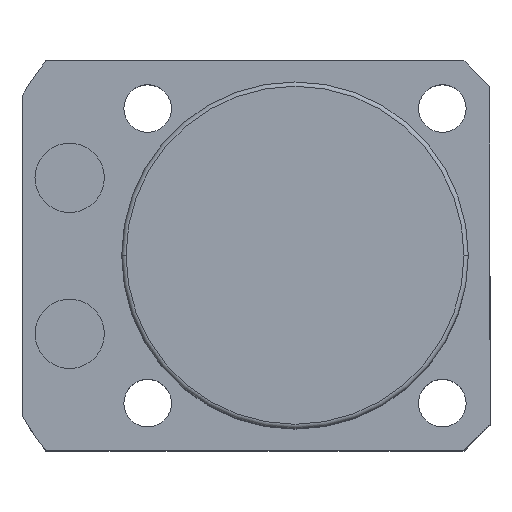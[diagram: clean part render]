
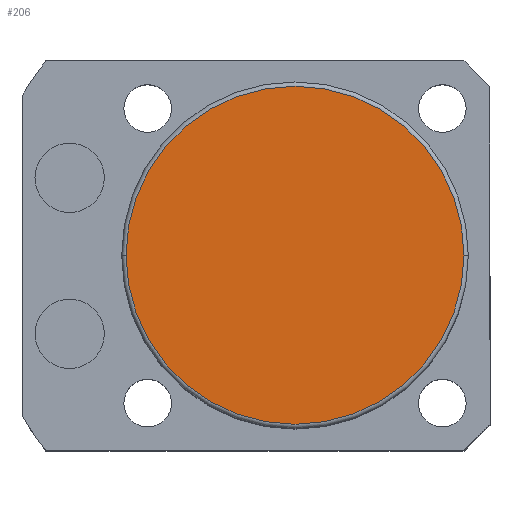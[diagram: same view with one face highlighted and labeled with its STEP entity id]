
A CAD part, top view. The second image highlights one B-rep face of the part: STEP entity #206.
In plain terms, the highlighted planar face has unit normal (0, 0, 1).
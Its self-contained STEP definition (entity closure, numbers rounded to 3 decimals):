
#27 = DIRECTION ( 'NONE',  ( 0., 0., 1. ) ) ;
#206 = ADVANCED_FACE ( 'NONE', ( #2060 ), #1868, .T. ) ;
#391 = CIRCLE ( 'NONE', #996, 19.5 ) ;
#403 = DIRECTION ( 'NONE',  ( 0., 0., 1. ) ) ;
#548 = ORIENTED_EDGE ( 'NONE', *, *, #2333, .T. ) ;
#574 = EDGE_LOOP ( 'NONE', ( #708, #548 ) ) ;
#708 = ORIENTED_EDGE ( 'NONE', *, *, #1601, .T. ) ;
#942 = AXIS2_PLACEMENT_3D ( 'NONE', #1696, #403, #1127 ) ;
#996 = AXIS2_PLACEMENT_3D ( 'NONE', #1747, #1778, #2327 ) ;
#1004 = CARTESIAN_POINT ( 'NONE',  ( 19.5, 0., 48.5 ) ) ;
#1009 = CARTESIAN_POINT ( 'NONE',  ( -19.5, 0., 48.5 ) ) ;
#1127 = DIRECTION ( 'NONE',  ( 1., 0., 0. ) ) ;
#1506 = VERTEX_POINT ( 'NONE', #1004 ) ;
#1601 = EDGE_CURVE ( 'NONE', #1506, #2107, #391, .T. ) ;
#1676 = DIRECTION ( 'NONE',  ( 1., 0., 0. ) ) ;
#1696 = CARTESIAN_POINT ( 'NONE',  ( 0., 0., 48.5 ) ) ;
#1747 = CARTESIAN_POINT ( 'NONE',  ( 0., 0., 48.5 ) ) ;
#1778 = DIRECTION ( 'NONE',  ( 0., 0., 1. ) ) ;
#1868 = PLANE ( 'NONE',  #942 ) ;
#1885 = CIRCLE ( 'NONE', #2155, 19.5 ) ;
#2060 = FACE_OUTER_BOUND ( 'NONE', #574, .T. ) ;
#2107 = VERTEX_POINT ( 'NONE', #1009 ) ;
#2155 = AXIS2_PLACEMENT_3D ( 'NONE', #2195, #27, #1676 ) ;
#2195 = CARTESIAN_POINT ( 'NONE',  ( 0., 0., 48.5 ) ) ;
#2327 = DIRECTION ( 'NONE',  ( 1., 0., 0. ) ) ;
#2333 = EDGE_CURVE ( 'NONE', #2107, #1506, #1885, .T. ) ;
